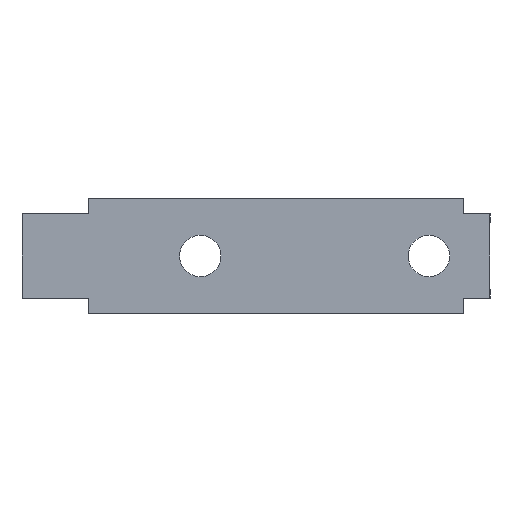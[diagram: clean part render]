
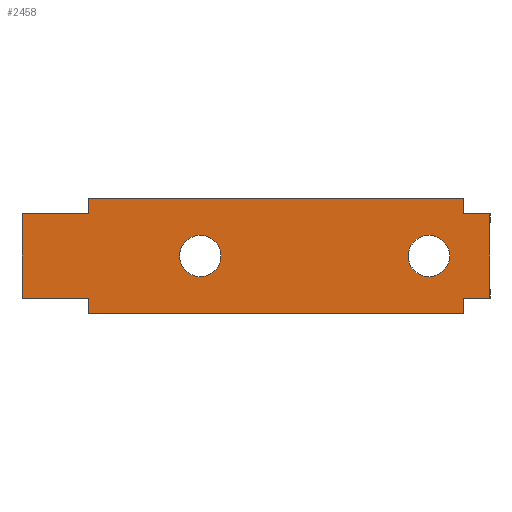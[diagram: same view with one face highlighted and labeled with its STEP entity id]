
A CAD part, left-side view. The second image highlights one B-rep face of the part: STEP entity #2458.
In plain terms, the highlighted planar face has unit normal (-1, 0, 0).
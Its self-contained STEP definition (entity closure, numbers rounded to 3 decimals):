
#48 = FACE_OUTER_BOUND ( 'NONE', #985, .T. ) ;
#53 = FACE_BOUND ( 'NONE', #765, .T. ) ;
#60 = FACE_BOUND ( 'NONE', #940, .T. ) ;
#86 = ORIENTED_EDGE ( 'NONE', *, *, #1141, .T. ) ;
#110 = VECTOR ( 'NONE', #2075, 1000. ) ;
#111 = LINE ( 'NONE', #2077, #110 ) ;
#135 = VECTOR ( 'NONE', #2043, 1000. ) ;
#136 = LINE ( 'NONE', #2044, #135 ) ;
#205 = VECTOR ( 'NONE', #2247, 1000. ) ;
#206 = LINE ( 'NONE', #2249, #205 ) ;
#277 = ORIENTED_EDGE ( 'NONE', *, *, #1231, .F. ) ;
#278 = ORIENTED_EDGE ( 'NONE', *, *, #1103, .F. ) ;
#280 = ORIENTED_EDGE ( 'NONE', *, *, #1255, .F. ) ;
#285 = ORIENTED_EDGE ( 'NONE', *, *, #1128, .F. ) ;
#292 = VECTOR ( 'NONE', #2295, 1000. ) ;
#294 = LINE ( 'NONE', #2296, #292 ) ;
#305 = CIRCLE ( 'NONE', #1195, 2.9 ) ;
#331 = VECTOR ( 'NONE', #2357, 1000. ) ;
#332 = LINE ( 'NONE', #2355, #331 ) ;
#381 = CIRCLE ( 'NONE', #1205, 2.9 ) ;
#384 = VECTOR ( 'NONE', #1880, 1000. ) ;
#385 = LINE ( 'NONE', #1884, #384 ) ;
#397 = CIRCLE ( 'NONE', #1087, 2.9 ) ;
#398 = LINE ( 'NONE', #2120, #728 ) ;
#408 = LINE ( 'NONE', #2047, #692 ) ;
#417 = CIRCLE ( 'NONE', #1145, 2.9 ) ;
#418 = VECTOR ( 'NONE', #2315, 1000. ) ;
#419 = LINE ( 'NONE', #2301, #699 ) ;
#420 = LINE ( 'NONE', #2316, #418 ) ;
#426 = LINE ( 'NONE', #2023, #687 ) ;
#453 = ORIENTED_EDGE ( 'NONE', *, *, #1189, .F. ) ;
#490 = VECTOR ( 'NONE', #1460, 1000. ) ;
#491 = LINE ( 'NONE', #1458, #490 ) ;
#514 = ORIENTED_EDGE ( 'NONE', *, *, #1039, .T. ) ;
#515 = ORIENTED_EDGE ( 'NONE', *, *, #1299, .F. ) ;
#557 = ORIENTED_EDGE ( 'NONE', *, *, #1175, .T. ) ;
#630 = ORIENTED_EDGE ( 'NONE', *, *, #1173, .F. ) ;
#631 = ORIENTED_EDGE ( 'NONE', *, *, #1127, .F. ) ;
#637 = ORIENTED_EDGE ( 'NONE', *, *, #1191, .F. ) ;
#639 = ORIENTED_EDGE ( 'NONE', *, *, #1247, .F. ) ;
#680 = ORIENTED_EDGE ( 'NONE', *, *, #1338, .F. ) ;
#687 = VECTOR ( 'NONE', #2136, 1000. ) ;
#692 = VECTOR ( 'NONE', #2042, 1000. ) ;
#699 = VECTOR ( 'NONE', #2253, 1000. ) ;
#728 = VECTOR ( 'NONE', #1997, 1000. ) ;
#765 = EDGE_LOOP ( 'NONE', ( #637, #639 ) ) ;
#918 = ORIENTED_EDGE ( 'NONE', *, *, #1349, .F. ) ;
#920 = ORIENTED_EDGE ( 'NONE', *, *, #1163, .F. ) ;
#940 = EDGE_LOOP ( 'NONE', ( #630, #631 ) ) ;
#985 = EDGE_LOOP ( 'NONE', ( #557, #680, #280, #278, #453, #277, #285, #86, #918, #920, #515, #514 ) ) ;
#1039 = EDGE_CURVE ( 'NONE', #1501, #1427, #491, .T. ) ;
#1074 = AXIS2_PLACEMENT_3D ( 'NONE', #1574, #1573, #1572 ) ;
#1087 = AXIS2_PLACEMENT_3D ( 'NONE', #1990, #1996, #1993 ) ;
#1103 = EDGE_CURVE ( 'NONE', #1499, #1438, #420, .T. ) ;
#1127 = EDGE_CURVE ( 'NONE', #1474, #1480, #417, .T. ) ;
#1128 = EDGE_CURVE ( 'NONE', #1505, #1360, #419, .T. ) ;
#1141 = EDGE_CURVE ( 'NONE', #1505, #1514, #408, .T. ) ;
#1145 = AXIS2_PLACEMENT_3D ( 'NONE', #2240, #2244, #2248 ) ;
#1163 = EDGE_CURVE ( 'NONE', #1497, #1469, #426, .T. ) ;
#1173 = EDGE_CURVE ( 'NONE', #1480, #1474, #397, .T. ) ;
#1175 = EDGE_CURVE ( 'NONE', #1427, #1440, #398, .T. ) ;
#1189 = EDGE_CURVE ( 'NONE', #1512, #1499, #385, .T. ) ;
#1191 = EDGE_CURVE ( 'NONE', #1478, #1424, #381, .T. ) ;
#1195 = AXIS2_PLACEMENT_3D ( 'NONE', #2317, #2327, #2326 ) ;
#1205 = AXIS2_PLACEMENT_3D ( 'NONE', #1877, #1894, #1891 ) ;
#1231 = EDGE_CURVE ( 'NONE', #1360, #1512, #332, .T. ) ;
#1247 = EDGE_CURVE ( 'NONE', #1424, #1478, #305, .T. ) ;
#1255 = EDGE_CURVE ( 'NONE', #1438, #1503, #294, .T. ) ;
#1299 = EDGE_CURVE ( 'NONE', #1501, #1497, #206, .T. ) ;
#1338 = EDGE_CURVE ( 'NONE', #1503, #1440, #136, .T. ) ;
#1349 = EDGE_CURVE ( 'NONE', #1469, #1514, #111, .T. ) ;
#1360 = VERTEX_POINT ( 'NONE', #2069 ) ;
#1424 = VERTEX_POINT ( 'NONE', #1900 ) ;
#1427 = VERTEX_POINT ( 'NONE', #1911 ) ;
#1438 = VERTEX_POINT ( 'NONE', #1920 ) ;
#1440 = VERTEX_POINT ( 'NONE', #1931 ) ;
#1458 = CARTESIAN_POINT ( 'NONE',  ( 0.65, -4.9, -8. ) ) ;
#1460 = DIRECTION ( 'NONE',  ( 0., 0., 1. ) ) ;
#1469 = VERTEX_POINT ( 'NONE', #1941 ) ;
#1474 = VERTEX_POINT ( 'NONE', #1951 ) ;
#1478 = VERTEX_POINT ( 'NONE', #1947 ) ;
#1480 = VERTEX_POINT ( 'NONE', #1958 ) ;
#1497 = VERTEX_POINT ( 'NONE', #1967 ) ;
#1499 = VERTEX_POINT ( 'NONE', #1979 ) ;
#1501 = VERTEX_POINT ( 'NONE', #1974 ) ;
#1503 = VERTEX_POINT ( 'NONE', #1986 ) ;
#1505 = VERTEX_POINT ( 'NONE', #1983 ) ;
#1512 = VERTEX_POINT ( 'NONE', #1988 ) ;
#1514 = VERTEX_POINT ( 'NONE', #2000 ) ;
#1572 = DIRECTION ( 'NONE',  ( 0., -1., 0. ) ) ;
#1573 = DIRECTION ( 'NONE',  ( 1., 0., 0. ) ) ;
#1574 = CARTESIAN_POINT ( 'NONE',  ( 0.65, 47.6, -8. ) ) ;
#1575 = PLANE ( 'NONE',  #1074 ) ;
#1877 = CARTESIAN_POINT ( 'NONE',  ( 0.65, 32., 0. ) ) ;
#1880 = DIRECTION ( 'NONE',  ( 0., 1., 0. ) ) ;
#1884 = CARTESIAN_POINT ( 'NONE',  ( 0.65, 47.6, -5.9 ) ) ;
#1891 = DIRECTION ( 'NONE',  ( 0., 1., 0. ) ) ;
#1894 = DIRECTION ( 'NONE',  ( -1., 0., 0. ) ) ;
#1900 = CARTESIAN_POINT ( 'NONE',  ( 0.65, 29.1, 0. ) ) ;
#1911 = CARTESIAN_POINT ( 'NONE',  ( 0.65, -4.9, 8. ) ) ;
#1920 = CARTESIAN_POINT ( 'NONE',  ( 0.65, 56.95, 5.9 ) ) ;
#1931 = CARTESIAN_POINT ( 'NONE',  ( 0.65, 47.6, 8. ) ) ;
#1941 = CARTESIAN_POINT ( 'NONE',  ( 0.65, -8.55, -5.9 ) ) ;
#1947 = CARTESIAN_POINT ( 'NONE',  ( 0.65, 34.9, 0. ) ) ;
#1951 = CARTESIAN_POINT ( 'NONE',  ( 0.65, -2.9, 0. ) ) ;
#1958 = CARTESIAN_POINT ( 'NONE',  ( 0.65, 2.9, 0. ) ) ;
#1967 = CARTESIAN_POINT ( 'NONE',  ( 0.65, -8.55, 5.9 ) ) ;
#1974 = CARTESIAN_POINT ( 'NONE',  ( 0.65, -4.9, 5.9 ) ) ;
#1979 = CARTESIAN_POINT ( 'NONE',  ( 0.65, 56.95, -5.9 ) ) ;
#1983 = CARTESIAN_POINT ( 'NONE',  ( 0.65, -4.9, -8. ) ) ;
#1986 = CARTESIAN_POINT ( 'NONE',  ( 0.65, 47.6, 5.9 ) ) ;
#1988 = CARTESIAN_POINT ( 'NONE',  ( 0.65, 47.6, -5.9 ) ) ;
#1990 = CARTESIAN_POINT ( 'NONE',  ( 0.65, 0., 0. ) ) ;
#1993 = DIRECTION ( 'NONE',  ( 0., 1., 0. ) ) ;
#1996 = DIRECTION ( 'NONE',  ( -1., 0., 0. ) ) ;
#1997 = DIRECTION ( 'NONE',  ( 0., 1., 0. ) ) ;
#2000 = CARTESIAN_POINT ( 'NONE',  ( 0.65, -4.9, -5.9 ) ) ;
#2023 = CARTESIAN_POINT ( 'NONE',  ( 0.65, -8.55, 5.9 ) ) ;
#2042 = DIRECTION ( 'NONE',  ( 0., 0., 1. ) ) ;
#2043 = DIRECTION ( 'NONE',  ( 0., 0., 1. ) ) ;
#2044 = CARTESIAN_POINT ( 'NONE',  ( 0.65, 47.6, -8. ) ) ;
#2047 = CARTESIAN_POINT ( 'NONE',  ( 0.65, -4.9, -8. ) ) ;
#2069 = CARTESIAN_POINT ( 'NONE',  ( 0.65, 47.6, -8. ) ) ;
#2075 = DIRECTION ( 'NONE',  ( 0., 1., 0. ) ) ;
#2077 = CARTESIAN_POINT ( 'NONE',  ( 0.65, -8.55, -5.9 ) ) ;
#2120 = CARTESIAN_POINT ( 'NONE',  ( 0.65, 47.6, 8. ) ) ;
#2136 = DIRECTION ( 'NONE',  ( 0., 0., -1. ) ) ;
#2240 = CARTESIAN_POINT ( 'NONE',  ( 0.65, 0., 0. ) ) ;
#2244 = DIRECTION ( 'NONE',  ( -1., 0., 0. ) ) ;
#2247 = DIRECTION ( 'NONE',  ( 0., -1., 0. ) ) ;
#2248 = DIRECTION ( 'NONE',  ( 0., 1., 0. ) ) ;
#2249 = CARTESIAN_POINT ( 'NONE',  ( 0.65, -8.55, 5.9 ) ) ;
#2253 = DIRECTION ( 'NONE',  ( 0., 1., 0. ) ) ;
#2295 = DIRECTION ( 'NONE',  ( 0., -1., 0. ) ) ;
#2296 = CARTESIAN_POINT ( 'NONE',  ( 0.65, 47.6, 5.9 ) ) ;
#2301 = CARTESIAN_POINT ( 'NONE',  ( 0.65, 47.6, -8. ) ) ;
#2315 = DIRECTION ( 'NONE',  ( 0., 0., 1. ) ) ;
#2316 = CARTESIAN_POINT ( 'NONE',  ( 0.65, 56.95, 5.9 ) ) ;
#2317 = CARTESIAN_POINT ( 'NONE',  ( 0.65, 32., 0. ) ) ;
#2326 = DIRECTION ( 'NONE',  ( 0., 1., 0. ) ) ;
#2327 = DIRECTION ( 'NONE',  ( -1., 0., 0. ) ) ;
#2355 = CARTESIAN_POINT ( 'NONE',  ( 0.65, 47.6, -8. ) ) ;
#2357 = DIRECTION ( 'NONE',  ( 0., 0., 1. ) ) ;
#2458 = ADVANCED_FACE ( 'NONE', ( #53, #60, #48 ), #1575, .F. ) ;
